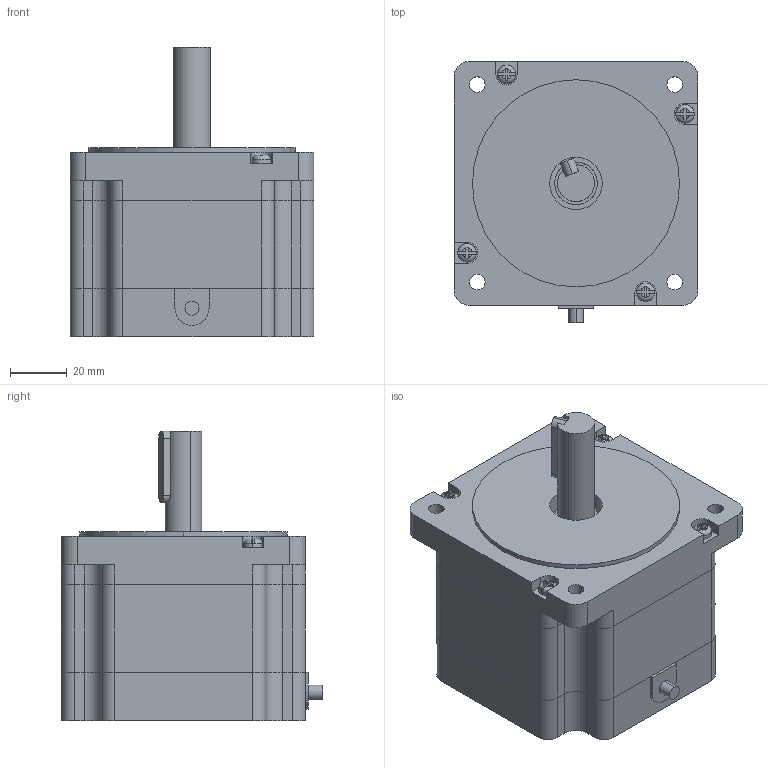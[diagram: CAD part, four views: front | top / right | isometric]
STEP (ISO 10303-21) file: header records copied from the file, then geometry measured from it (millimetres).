
FILE_DESCRIPTION (( 'STEP AP203' ), '1' );
FILE_NAME ('34HS6460D13L37-J5-25三维.STEP', '2020-04-22T00:47:07', ( '' ), ( '' ), 'SwSTEP 2.0', 'SolidWorks 2016', '' );
FILE_SCHEMA (( 'CONFIG_CONTROL_DESIGN' ));
Length unit declared in the file: millimetre
Products named in the file (8): ACT-86-002-6; 34HS6460D13L37-J5-25三维; 85-31; 6202ZZ; M4; 5-25瑩; 粣; ACT-86-015-4
Assembly tree (11 placements, depth 2):
  34HS6460D13L37-J5-25三维
    85-31
    ACT-86-015-4
    ACT-86-002-6
    粣
    6202ZZ  x2
    M4  x4
    5-25瑩
Bounding box: 86 x 92 x 102 mm (x, y, z)
Volume: 392742.6 mm3; surface area: 86603 mm2
Topology: 11 solids, 11 shells, 291 faces, 752 edges, 496 vertices
Faces by surface type: plane 151, cylinder 132, torus 8
Entity records: 7915 total; most frequent: CARTESIAN_POINT 1284, DIRECTION 1259, ORIENTED_EDGE 1144, EDGE_CURVE 572, AXIS2_PLACEMENT_3D 469, VERTEX_POINT 380, LINE 321, VECTOR 321
